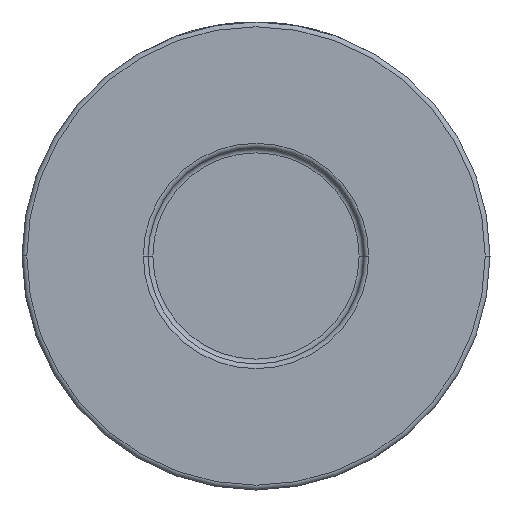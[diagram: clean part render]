
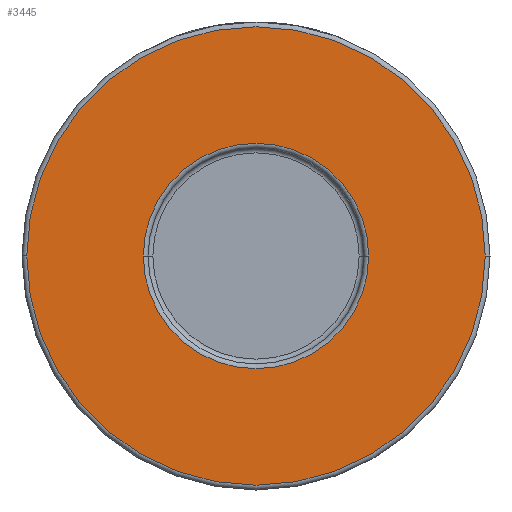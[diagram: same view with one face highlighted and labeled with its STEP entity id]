
A CAD part, front view. The second image highlights one B-rep face of the part: STEP entity #3445.
In plain terms, the highlighted planar face has unit normal (0, -1, 0).
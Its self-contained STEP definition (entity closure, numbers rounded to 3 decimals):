
#39 = EDGE_LOOP ( 'NONE', ( #3557, #199 ) ) ;
#199 = ORIENTED_EDGE ( 'NONE', *, *, #4314, .T. ) ;
#220 = CARTESIAN_POINT ( 'NONE',  ( 0., -30., 0. ) ) ;
#226 = DIRECTION ( 'NONE',  ( 1., 0., 0. ) ) ;
#332 = DIRECTION ( 'NONE',  ( 0., -1., 0. ) ) ;
#528 = VERTEX_POINT ( 'NONE', #3727 ) ;
#616 = CARTESIAN_POINT ( 'NONE',  ( 0., -30., 0. ) ) ;
#636 = DIRECTION ( 'NONE',  ( 1., 0., 0. ) ) ;
#638 = VERTEX_POINT ( 'NONE', #4168 ) ;
#642 = DIRECTION ( 'NONE',  ( 1., 0., 0. ) ) ;
#961 = DIRECTION ( 'NONE',  ( 1., 0., 0. ) ) ;
#1151 = ORIENTED_EDGE ( 'NONE', *, *, #4205, .T. ) ;
#1240 = CARTESIAN_POINT ( 'NONE',  ( 0., -30., 0. ) ) ;
#1311 = DIRECTION ( 'NONE',  ( 0., 1., 0. ) ) ;
#1351 = CIRCLE ( 'NONE', #2174, 48. ) ;
#1493 = AXIS2_PLACEMENT_3D ( 'NONE', #220, #3111, #642 ) ;
#1495 = AXIS2_PLACEMENT_3D ( 'NONE', #616, #2040, #961 ) ;
#1617 = CARTESIAN_POINT ( 'NONE',  ( 49., -30., 0. ) ) ;
#2029 = AXIS2_PLACEMENT_3D ( 'NONE', #1240, #1311, #636 ) ;
#2040 = DIRECTION ( 'NONE',  ( 0., -1., 0. ) ) ;
#2095 = PLANE ( 'NONE',  #3434 ) ;
#2174 = AXIS2_PLACEMENT_3D ( 'NONE', #3913, #332, #3151 ) ;
#2323 = CARTESIAN_POINT ( 'NONE',  ( 23.6, -30., 0. ) ) ;
#2767 = FACE_BOUND ( 'NONE', #4035, .T. ) ;
#2834 = CIRCLE ( 'NONE', #1493, 23.6 ) ;
#2924 = VERTEX_POINT ( 'NONE', #4044 ) ;
#2947 = ORIENTED_EDGE ( 'NONE', *, *, #3893, .T. ) ;
#3044 = DIRECTION ( 'NONE',  ( 0., -1., 0. ) ) ;
#3111 = DIRECTION ( 'NONE',  ( 0., 1., 0. ) ) ;
#3151 = DIRECTION ( 'NONE',  ( 1., 0., 0. ) ) ;
#3298 = VERTEX_POINT ( 'NONE', #2323 ) ;
#3434 = AXIS2_PLACEMENT_3D ( 'NONE', #1617, #3044, #226 ) ;
#3444 = FACE_OUTER_BOUND ( 'NONE', #39, .T. ) ;
#3445 = ADVANCED_FACE ( 'NONE', ( #2767, #3444 ), #2095, .T. ) ;
#3557 = ORIENTED_EDGE ( 'NONE', *, *, #4156, .T. ) ;
#3727 = CARTESIAN_POINT ( 'NONE',  ( -48., -30., 0. ) ) ;
#3893 = EDGE_CURVE ( 'NONE', #2924, #3298, #2834, .T. ) ;
#3913 = CARTESIAN_POINT ( 'NONE',  ( 0., -30., 0. ) ) ;
#4035 = EDGE_LOOP ( 'NONE', ( #1151, #2947 ) ) ;
#4044 = CARTESIAN_POINT ( 'NONE',  ( -23.6, -30., 0. ) ) ;
#4156 = EDGE_CURVE ( 'NONE', #638, #528, #4385, .T. ) ;
#4168 = CARTESIAN_POINT ( 'NONE',  ( 48., -30., 0. ) ) ;
#4205 = EDGE_CURVE ( 'NONE', #3298, #2924, #4472, .T. ) ;
#4314 = EDGE_CURVE ( 'NONE', #528, #638, #1351, .T. ) ;
#4385 = CIRCLE ( 'NONE', #1495, 48. ) ;
#4472 = CIRCLE ( 'NONE', #2029, 23.6 ) ;
